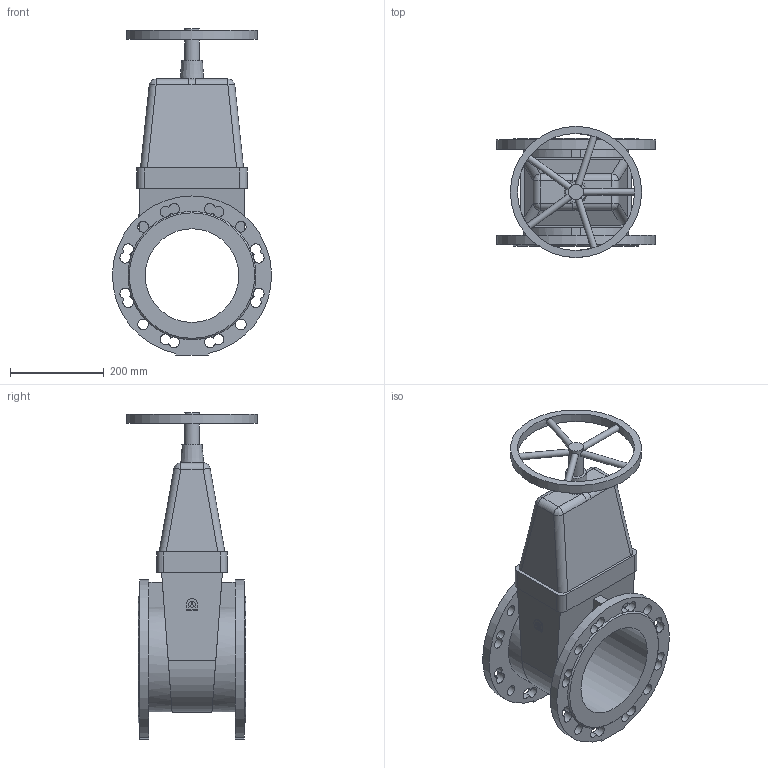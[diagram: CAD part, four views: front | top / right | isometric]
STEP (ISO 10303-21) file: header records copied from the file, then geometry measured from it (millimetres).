
FILE_DESCRIPTION(('STEP AP203'), '1');
FILE_NAME('Çàäâèæêà 47GV DN200 PN10_PN16_L230 ñ ìàõîâèêîì', '', ('UNSPECIFIED'), ('UNSPECIFIED'), 'ASCON STEP Converter 1.6', 'ASCON Math Kernel', '');
FILE_SCHEMA(('CONFIG_CONTROL_DESIGN'));
Length unit declared in the file: millimetre
Bounding box: 339.95 x 280 x 697 mm (x, y, z)
Volume: 12518684.7 mm3; surface area: 869420.2 mm2
Topology: 1 solids, 1 shells, 162 faces, 486 edges, 307 vertices
Faces by surface type: plane 77, cylinder 76, bspline 6, cone 3
Full cylindrical faces by diameter (mm): 14 x5, 23 x8, 32 x1, 200 x1, 250 x1, 280 x1
Entity records: 9964 total; most frequent: CARTESIAN_POINT 4204, DIRECTION 962, ORIENTED_EDGE 912, EDGE_CURVE 456, AXIS2_PLACEMENT_3D 403, VERTEX_POINT 304, CIRCLE 246, EDGE_LOOP 230
